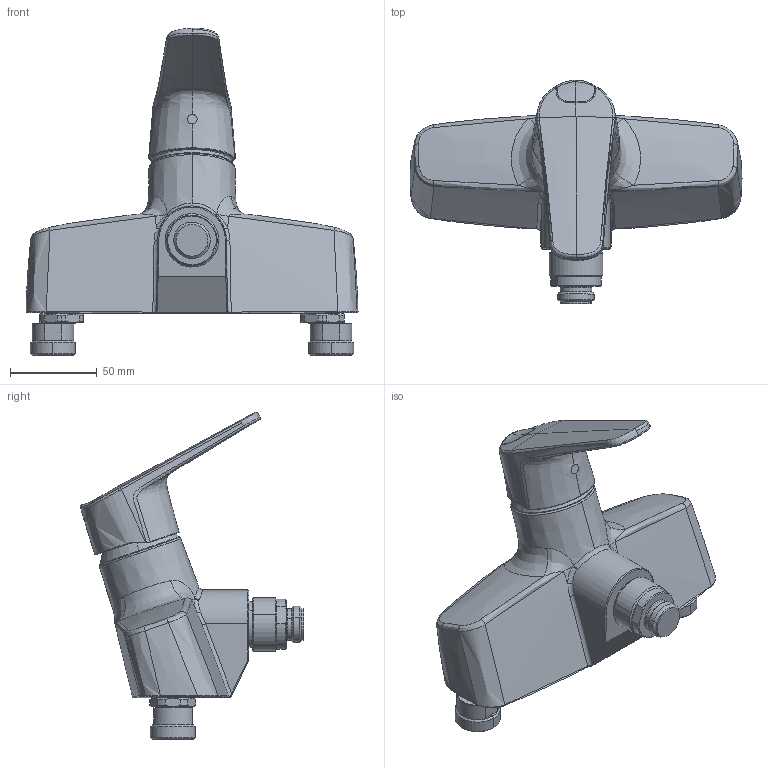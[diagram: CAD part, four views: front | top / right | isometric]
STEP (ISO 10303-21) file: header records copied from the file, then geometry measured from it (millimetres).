
FILE_DESCRIPTION (( 'STEP AP203' ), '1' );
FILE_NAME ('1885G(2018).STEP', '2019-06-03T11:27:20', ( '' ), ( '' ), 'SwSTEP 2.0', 'SolidWorks 2016', '' );
FILE_SCHEMA (( 'CONFIG_CONTROL_DESIGN' ));
Length unit declared in the file: millimetre
Products named in the file (1): 1885G(2018)
Bounding box: 191.05 x 128.52 x 188.4 mm (x, y, z)
Volume: 688384.9 mm3; surface area: 67442.7 mm2
Topology: 1 solids, 1 shells, 275 faces, 695 edges, 434 vertices
Faces by surface type: bspline 119, cylinder 62, plane 45, cone 36, torus 12, sphere 1
Entity records: 29049 total; most frequent: CARTESIAN_POINT 23446, ORIENTED_EDGE 1390, DIRECTION 824, EDGE_CURVE 695, VERTEX_POINT 434, B_SPLINE_CURVE_WITH_KNOTS 356, AXIS2_PLACEMENT_3D 353, EDGE_LOOP 287
